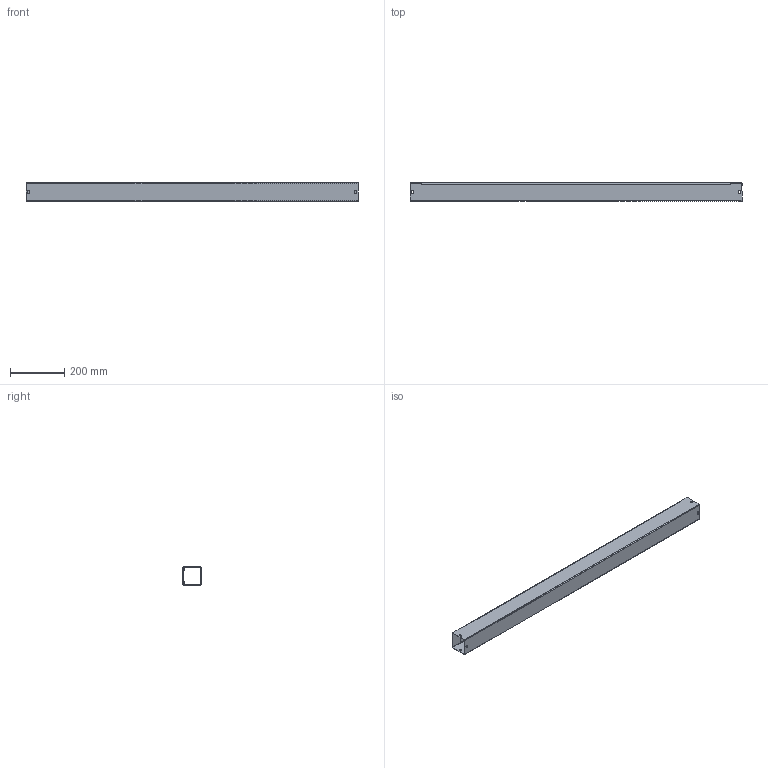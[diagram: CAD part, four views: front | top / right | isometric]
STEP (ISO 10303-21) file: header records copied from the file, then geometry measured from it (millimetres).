
FILE_DESCRIPTION (( 'STEP AP203' ), '1' );
FILE_NAME ('f22t148gv.STEP', '2008-06-26T14:42:58', ( '' ), ( '' ), 'SwSTEP 2.0', 'SolidWorks 2007', '' );
FILE_SCHEMA (( 'CONFIG_CONTROL_DESIGN' ));
Length unit declared in the file: inch
Products named in the file (3): BodyWireway_16GA_2x2x48; f22t148gv; CoverWireway_16GA_2x48
Assembly tree (2 placements, depth 2):
  f22t148gv
    BodyWireway_16GA_2x2x48
    CoverWireway_16GA_2x48
Bounding box: 1219.2 x 66.17 x 67.31 mm (x, y, z)
Volume: 486641.9 mm3; surface area: 705176.7 mm2
Topology: 2 solids, 2 shells, 166 faces, 434 edges, 280 vertices
Faces by surface type: cylinder 86, plane 80
Entity records: 5529 total; most frequent: DIRECTION 952, CARTESIAN_POINT 885, ORIENTED_EDGE 868, EDGE_CURVE 434, AXIS2_PLACEMENT_3D 347, VERTEX_POINT 280, VECTOR 258, LINE 258
